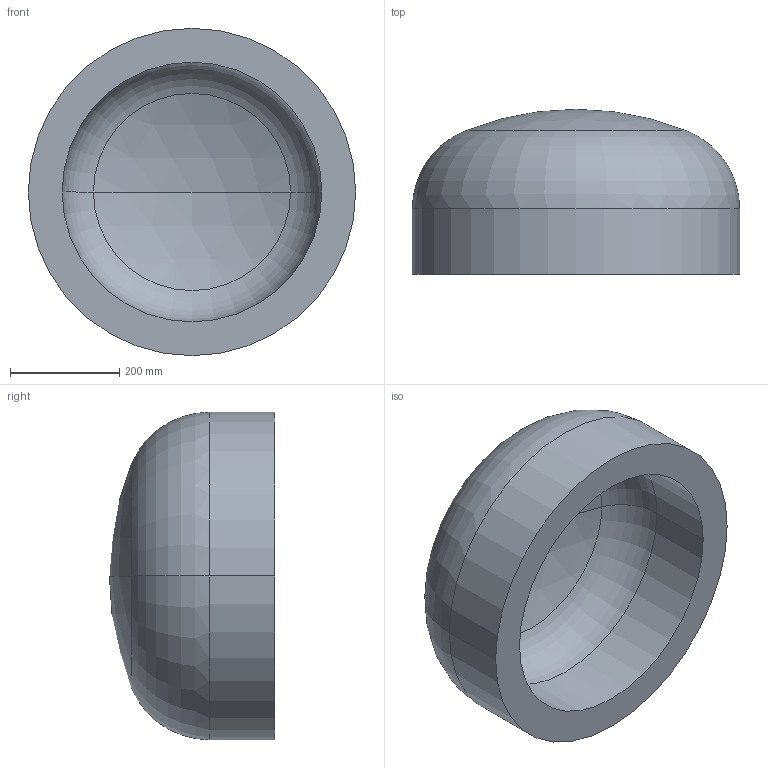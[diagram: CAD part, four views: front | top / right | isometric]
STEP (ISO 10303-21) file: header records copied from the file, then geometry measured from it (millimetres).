
FILE_DESCRIPTION (( 'STEP AP203' ), '1' );
FILE_NAME ('DIN 28013 Korbbogenform_-_Boden DIN 28013 - 600 x 120 - I - s=62.step', '2016-07-01T08:02:11', ( '' ), ( '' ), 'SwSTEP 2.0', 'SolidWorks 2013', '' );
FILE_SCHEMA (( 'CONFIG_CONTROL_DESIGN' ));
Length unit declared in the file: millimetre
Products named in the file (1): DIN 28013 Korbbogenform_-_Boden DIN 28013 - 600 x 120 - I - s=62
Bounding box: 600 x 302.52 x 600 mm (x, y, z)
Volume: 33926373.4 mm3; surface area: 1207240.8 mm2
Topology: 1 solids, 1 shells, 13 faces, 24 edges, 14 vertices
Faces by surface type: torus 4, cylinder 4, sphere 4, plane 1
Entity records: 407 total; most frequent: DIRECTION 72, CARTESIAN_POINT 52, ORIENTED_EDGE 48, AXIS2_PLACEMENT_3D 34, EDGE_CURVE 24, CIRCLE 20, VERTEX_POINT 14, EDGE_LOOP 14
